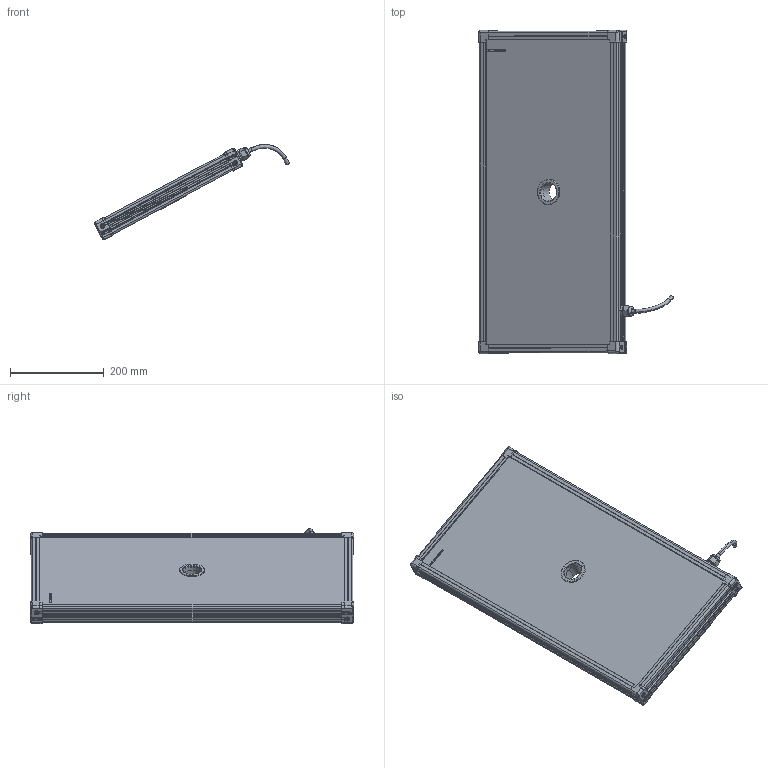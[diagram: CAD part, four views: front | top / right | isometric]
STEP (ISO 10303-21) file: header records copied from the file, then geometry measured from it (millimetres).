
FILE_DESCRIPTION (( 'STEP AP214' ), '1' );
FILE_NAME ('EFFI-FD-300-650-ZZZ-1M12P.STEP', '2021-06-21T08:40:35', ( '' ), ( '' ), 'SwSTEP 2.0', 'SolidWorks 2021', '' );
FILE_SCHEMA (( 'AUTOMOTIVE_DESIGN' ));
Length unit declared in the file: millimetre
Products named in the file (13): M12 power_AVEC CABLE D8.1; profile Y_PERCE; petite joue + vis; 001036; 001035; assemblage Ø39; 000590; petite joue; Pièce13^EFFI-FD-XXX-YYY-ZZZ (1 connecteur) M12POWER Ø39; EFFI-FD-300-650-ZZZ-1M12P; 000629; profile X_PERCE
Assembly tree (19 placements, depth 3):
  EFFI-FD-300-650-ZZZ-1M12P
    profile X_PERCE  x2
    profile Y_PERCE
    profile Y_PERCE
    Pièce13^EFFI-FD-XXX-YYY-ZZZ (1 connecteur) M12POWER Ø39
    petite joue + vis  x4
      petite joue
      000629
    M12 power_AVEC CABLE D8.1
    assemblage Ø39
      001036
      000590  x3
      001035
Bounding box: 414.9 x 689 x 202.6 mm (x, y, z)
Volume: 8030024 mm3; surface area: 791789.9 mm2
Topology: 22 solids, 25 shells, 3896 faces, 10381 edges, 6830 vertices
Faces by surface type: plane 2438, cylinder 691, bspline 591, cone 154, torus 22
Entity records: 54477 total; most frequent: CARTESIAN_POINT 22298, ORIENTED_EDGE 6752, DIRECTION 5429, EDGE_CURVE 3378, LINE 2403, VECTOR 2403, VERTEX_POINT 2231, AXIS2_PLACEMENT_3D 1513
